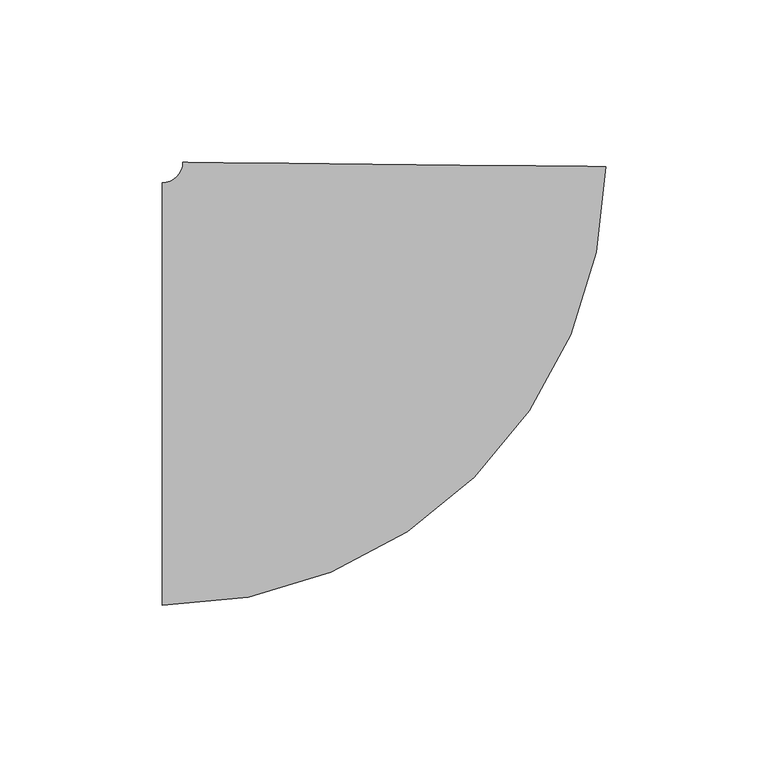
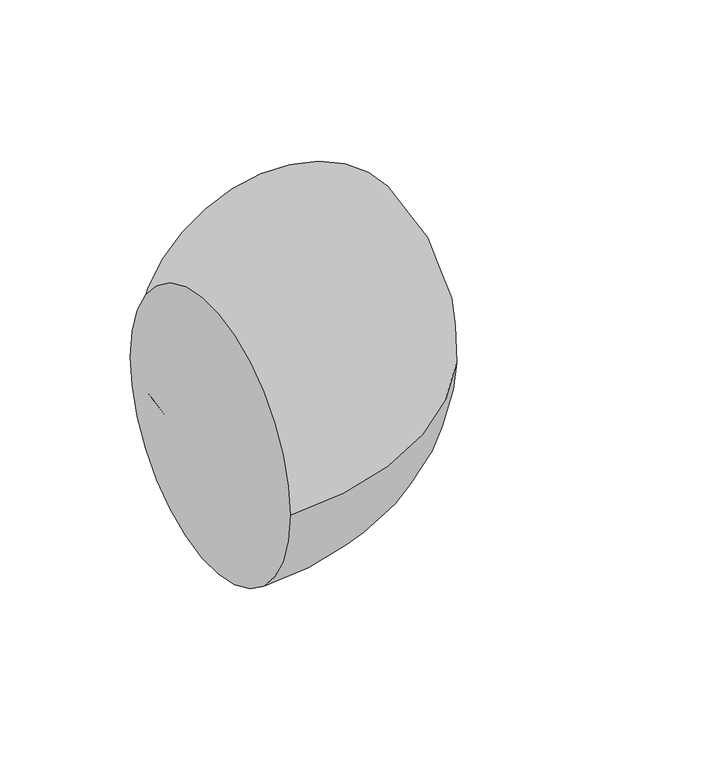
"""IFC4 building model written with IfcOpenShell, lengths in millimetres: pipe fitting geometry, M_Codo - Genérico : Estándar."""

from ifc_helpers import new_model, si_unit, point, frame, origin, place, context, project, spatial, circle_curve, ellipse_curve, trimmed, source, transform, mapped, element, save
from ifc_brep_helpers import plane_surface, revolved_surface, advanced_brep


def pipe_fitting_90c71d7b(model_context):
    return source(origin(), model_context, "Body", "AdvancedBrep", [
        advanced_brep(
        [(-70.7267051, -65.0875, 0.0), (-70.7267051, 65.0875, 0.0), (65.7914693, 70.0723344, 0.0), (-64.3770226, 71.3740039, 0.0)],
        [
            (0, 1, circle_curve(frame((-70.7267051, 0.0, 0.0), z_axis=(-1.0, 0.0, 0.0), x_axis=(0.0, 1.0, 0.0)), 65.0875)),
            (1, 0, circle_curve(frame((-70.7267051, 0.0, 0.0), z_axis=(-1.0, 0.0, 0.0), x_axis=(0.0, 1.0, 0.0)), 65.0875)),
            (2, 3, circle_curve(frame((0.7072233, 70.7231692, 0.0), z_axis=(0.009999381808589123, 0.9999500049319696, 0.0), x_axis=(-0.9999500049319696, 0.009999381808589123, 0.0)), 65.0875)),
            (3, 2, circle_curve(frame((0.7072233, 70.7231692, 0.0), z_axis=(0.009999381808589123, 0.9999500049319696, 0.0), x_axis=(-0.9999500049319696, 0.009999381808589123, 0.0)), 65.0875)),
            (3, 1, circle_curve(frame((-70.7267051, 71.4375, 0.0), z_axis=(0.0, 0.0, -1.0), x_axis=(0.0, -1.0, 0.0)), 6.35)),
            (0, 2, circle_curve(frame((-70.7267051, 71.4375, 0.0), z_axis=(0.0, 0.0, 1.0), x_axis=(0.0, -1.0, 0.0)), 136.525)),
        ],
        [
            plane_surface(frame((-70.7267051, 0.0, 0.0), z_axis=(-1.0, 0.0, 0.0), x_axis=(0.0, 0.0, 1.0))),
            plane_surface(frame((0.7072233, 70.7231692, 0.0), z_axis=(0.009999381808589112, 0.9999500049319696, 0.0), x_axis=(0.0, 0.0, 1.0))),
            revolved_surface(trimmed(ellipse_curve(frame((-70.7267051, 0.0, 0.0), z_axis=(-1.0, 0.0, 0.0), x_axis=(0.0, 1.0, 0.0)), 65.0875, 65.0875), [point((-70.7267051, -65.0875, 0.0))], [point((-70.7267051, 65.0875, 0.0))], True, "CARTESIAN"), (-70.7267051, 71.4375, 0.0), (0.0, 0.0, 1.0)),
            revolved_surface(trimmed(ellipse_curve(frame((-70.7267051, 0.0, 0.0), z_axis=(-1.0, 0.0, 0.0), x_axis=(0.0, 1.0, 0.0)), 65.0875, 65.0875), [point((-70.7267051, 65.0875, 0.0))], [point((-70.7267051, -65.0875, 0.0))], True, "CARTESIAN"), (-70.7267051, 71.4375, 0.0), (0.0, 0.0, 1.0)),
        ],
        [
            (0, [[1, 2]]),
            (1, [[3, 4]]),
            (2, [[5, -1, 6, -4]]),
            (3, [[-6, -2, -5, -3]]),
        ],
    ),
    ])


if __name__ == "__main__":
    model = new_model("IFC4")
    model_context = context("Model", 3, world=origin())
    ifc_project = project(units=[si_unit("LENGTHUNIT", "METRE", prefix="MILLI")], contexts=[model_context])
    site = spatial("IfcSite", under=ifc_project)
    building = spatial("IfcBuilding", under=site)
    placement = place(None, origin())
    pipe_fitting_shape = pipe_fitting_90c71d7b(model_context)
    element("IfcPipeFitting", 1, ObjectType="M_Codo - Genérico : Estándar", at=placement, inside=building, context=model_context, shape_type="MappedRepresentation", body=[
        mapped(pipe_fitting_shape, transform((0.0, 0.0, 0.0), x_axis=(1.0, 0.0, 0.0), y_axis=(0.0, 1.0, 0.0), z_axis=(0.0, 0.0, 1.0))),
    ])
    save(model, "model.ifc")
